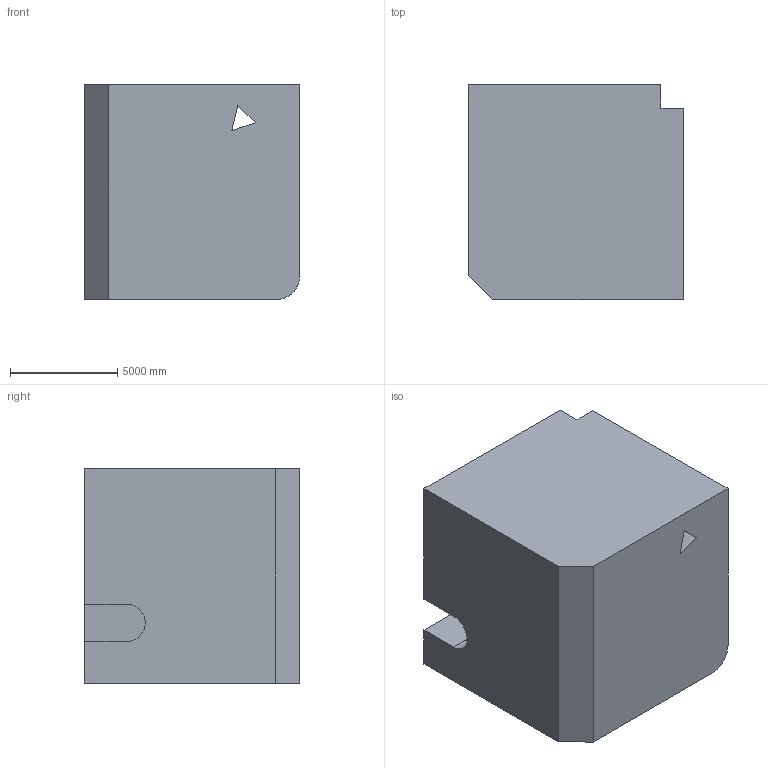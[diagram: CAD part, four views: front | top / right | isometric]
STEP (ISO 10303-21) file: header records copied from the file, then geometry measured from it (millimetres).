
FILE_DESCRIPTION (( 'STEP AP203' ), '1' );
FILE_NAME ('1887.STEP', '2022-08-26T13:31:23', ( 'user' ), ( '' ), 'SwSTEP 2.0', 'SolidWorks 2021', '' );
FILE_SCHEMA (( 'CONFIG_CONTROL_DESIGN' ));
Length unit declared in the file: centimetre
Products named in the file (1): 1887
Bounding box: 10000 x 10000 x 10000 mm (x, y, z)
Volume: 920674632062.2 mm3; surface area: 722731619.7 mm2
Topology: 1 solids, 1 shells, 40 faces, 99 edges, 66 vertices
Faces by surface type: plane 32, cylinder 8
Entity records: 1261 total; most frequent: CARTESIAN_POINT 206, ORIENTED_EDGE 198, DIRECTION 198, EDGE_CURVE 99, LINE 82, VECTOR 82, VERTEX_POINT 66, AXIS2_PLACEMENT_3D 58
